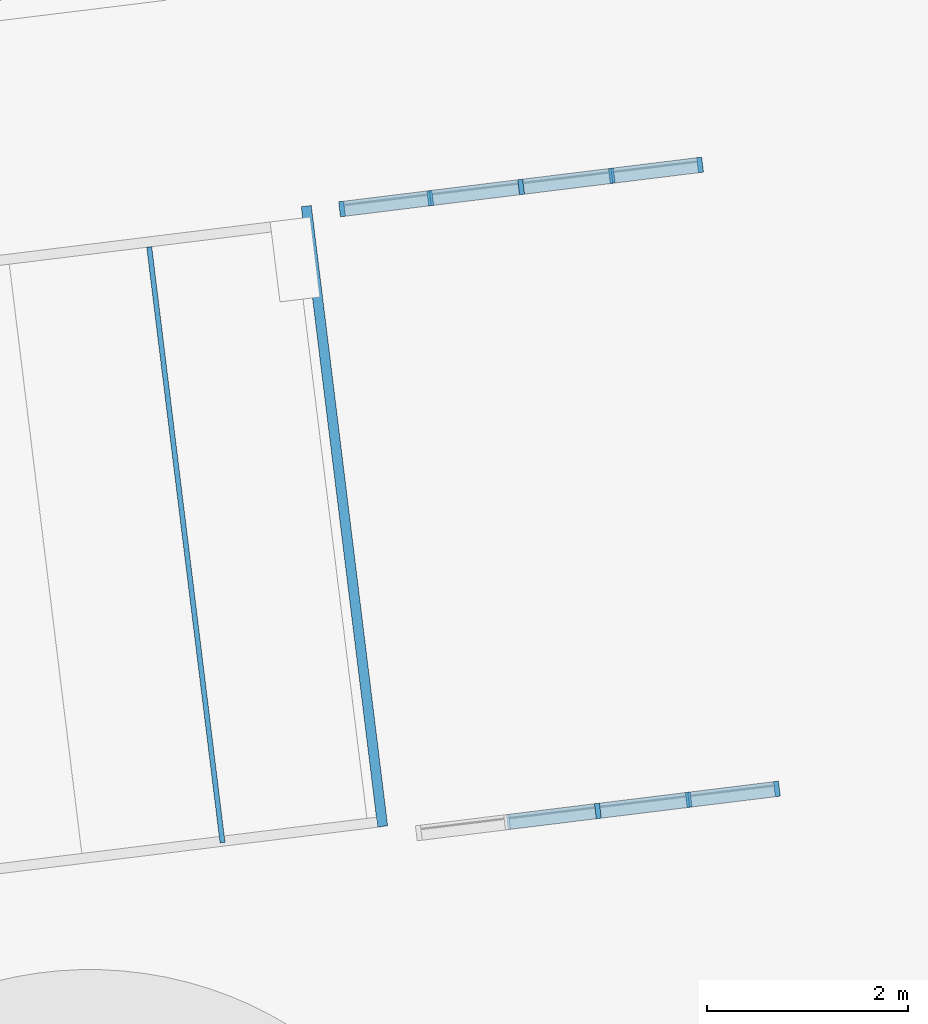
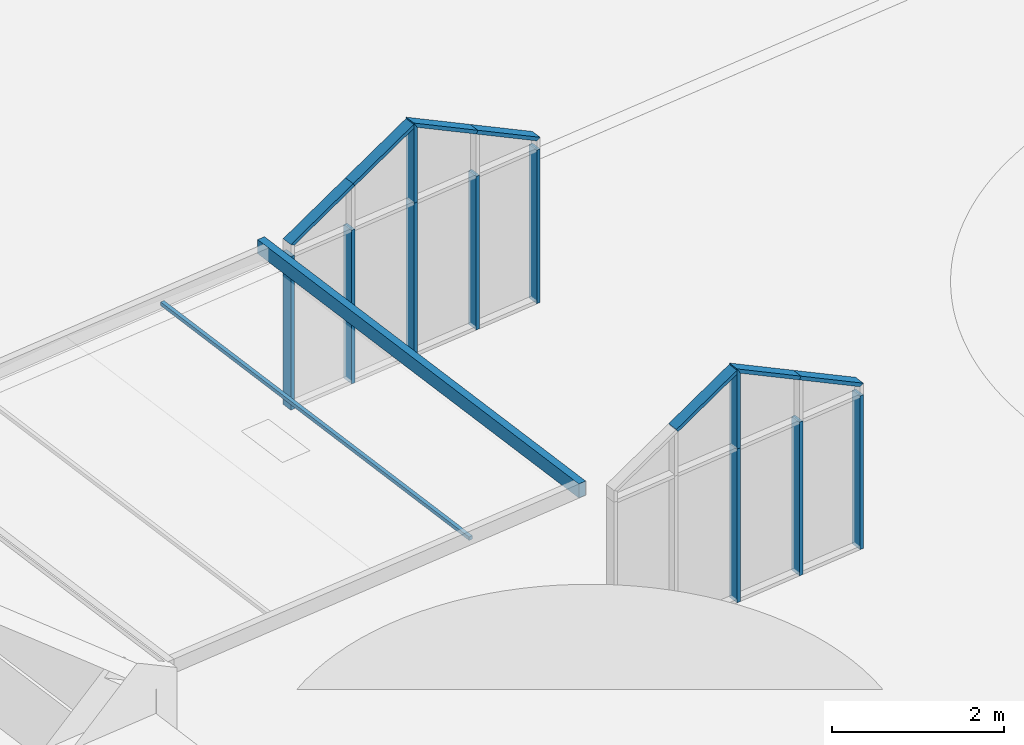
# One storey, part 2 of 75: 17 members, 2 beams, 2 elements without a shape of their own.
"""IFC2X3 building model written with IfcOpenShell, lengths in metres."""

from ifc_helpers import new_model, entity, si_unit, converted_unit, derived_unit, direction, frame, frame_2d, origin, origin_2d_with_axis, place, context, subcontext, project, spatial, rectangle, extrude, clip, halfspace, source, transform, mapped, material, type_object, type_shapes, element, aggregate, save


model = new_model("IFC2X3")

# Units and contexts
model_context = context("Model", 3, precision=1e-05, world=origin(), true_north=direction((6.123031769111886e-17, 1.0)))
body_context = subcontext(model_context, "Body", "Model", "MODEL_VIEW")
ifc_project = project(units=[si_unit("LENGTHUNIT", "METRE"), si_unit("AREAUNIT", "SQUARE_METRE"), si_unit("VOLUMEUNIT", "CUBIC_METRE"), converted_unit("PLANEANGLEUNIT", "DEGREE", entity("IfcRatioMeasure", 0.017453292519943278), si_unit("PLANEANGLEUNIT", "RADIAN"), dimensions=[0, 0, 0, 0, 0, 0, 0]), si_unit("MASSUNIT", "GRAM", prefix="KILO"), derived_unit("MASSDENSITYUNIT", [(si_unit("MASSUNIT", "GRAM", prefix="KILO"), 1), (si_unit("LENGTHUNIT", "METRE"), -3)]), derived_unit("IONCONCENTRATIONUNIT", [(si_unit("MASSUNIT", "GRAM", prefix="KILO"), 1), (si_unit("LENGTHUNIT", "METRE"), -3)]), derived_unit("MOMENTOFINERTIAUNIT", [(si_unit("LENGTHUNIT", "METRE"), 4)]), si_unit("TIMEUNIT", "SECOND"), si_unit("FREQUENCYUNIT", "HERTZ"), si_unit("THERMODYNAMICTEMPERATUREUNIT", "DEGREE_CELSIUS"), derived_unit("THERMALTRANSMITTANCEUNIT", [(si_unit("MASSUNIT", "GRAM", prefix="KILO"), 1), (si_unit("THERMODYNAMICTEMPERATUREUNIT", "KELVIN"), -1), (si_unit("TIMEUNIT", "SECOND"), -3)]), derived_unit("THERMALCONDUCTANCEUNIT", [(si_unit("MASSUNIT", "GRAM", prefix="KILO"), 1), (si_unit("THERMODYNAMICTEMPERATUREUNIT", "KELVIN"), -1), (si_unit("TIMEUNIT", "SECOND"), -3), (si_unit("LENGTHUNIT", "METRE"), 1)]), derived_unit("VOLUMETRICFLOWRATEUNIT", [(si_unit("LENGTHUNIT", "METRE"), 3), (si_unit("TIMEUNIT", "SECOND"), -1)]), derived_unit("MASSFLOWRATEUNIT", [(si_unit("MASSUNIT", "GRAM", prefix="KILO"), 1), (si_unit("TIMEUNIT", "SECOND"), -1)]), derived_unit("ROTATIONALFREQUENCYUNIT", [(si_unit("TIMEUNIT", "SECOND"), -1)]), si_unit("ELECTRICCURRENTUNIT", "AMPERE"), si_unit("ELECTRICVOLTAGEUNIT", "VOLT"), si_unit("POWERUNIT", "WATT"), si_unit("FORCEUNIT", "NEWTON", prefix="KILO"), si_unit("ILLUMINANCEUNIT", "LUX"), si_unit("LUMINOUSFLUXUNIT", "LUMEN"), si_unit("LUMINOUSINTENSITYUNIT", "CANDELA"), derived_unit("USERDEFINED", [(si_unit("MASSUNIT", "GRAM", prefix="KILO"), -1), (si_unit("LENGTHUNIT", "METRE"), -2), (si_unit("TIMEUNIT", "SECOND"), 3), (si_unit("LUMINOUSFLUXUNIT", "LUMEN"), 1)]), derived_unit("USERDEFINED", [(si_unit("MASSUNIT", "GRAM", prefix="KILO"), 1), (si_unit("TIMEUNIT", "SECOND"), -3), (si_unit("LENGTHUNIT", "METRE"), 3), (si_unit("ELECTRICCURRENTUNIT", "AMPERE"), -2)]), derived_unit("SOUNDPOWERUNIT", [(si_unit("MASSUNIT", "GRAM", prefix="KILO"), 1), (si_unit("TIMEUNIT", "SECOND"), -3), (si_unit("LENGTHUNIT", "METRE"), 2)]), derived_unit("SOUNDPRESSUREUNIT", [(si_unit("MASSUNIT", "GRAM", prefix="KILO"), 1), (si_unit("LENGTHUNIT", "METRE"), -1), (si_unit("TIMEUNIT", "SECOND"), -2)]), derived_unit("LINEARVELOCITYUNIT", [(si_unit("LENGTHUNIT", "METRE"), 1), (si_unit("TIMEUNIT", "SECOND"), -1)]), si_unit("PRESSUREUNIT", "PASCAL"), derived_unit("USERDEFINED", [(si_unit("MASSUNIT", "GRAM", prefix="KILO"), 1), (si_unit("LENGTHUNIT", "METRE"), -2), (si_unit("TIMEUNIT", "SECOND"), -2)]), derived_unit("LINEARFORCEUNIT", [(si_unit("MASSUNIT", "GRAM", prefix="KILO"), 1), (si_unit("TIMEUNIT", "SECOND"), -2)]), derived_unit("PLANARFORCEUNIT", [(si_unit("MASSUNIT", "GRAM", prefix="KILO"), 1), (si_unit("LENGTHUNIT", "METRE"), -1), (si_unit("TIMEUNIT", "SECOND"), -2)]), derived_unit("SPECIFICHEATCAPACITYUNIT", [(si_unit("THERMODYNAMICTEMPERATUREUNIT", "KELVIN"), -1), (si_unit("LENGTHUNIT", "METRE"), 2), (si_unit("TIMEUNIT", "SECOND"), -2)]), derived_unit("HEATINGVALUEUNIT", [(si_unit("LENGTHUNIT", "METRE"), 2), (si_unit("TIMEUNIT", "SECOND"), -2)]), derived_unit("VAPORPERMEABILITYUNIT", [(si_unit("LENGTHUNIT", "METRE"), -1), (si_unit("TIMEUNIT", "SECOND"), 1)]), derived_unit("DYNAMICVISCOSITYUNIT", [(si_unit("MASSUNIT", "GRAM", prefix="KILO"), 1), (si_unit("TIMEUNIT", "SECOND"), -1), (si_unit("LENGTHUNIT", "METRE"), -1)]), derived_unit("THERMALEXPANSIONCOEFFICIENTUNIT", [(si_unit("THERMODYNAMICTEMPERATUREUNIT", "KELVIN"), -1)]), derived_unit("MODULUSOFELASTICITYUNIT", [(si_unit("MASSUNIT", "GRAM", prefix="KILO"), 1), (si_unit("LENGTHUNIT", "METRE"), -1), (si_unit("TIMEUNIT", "SECOND"), -2)]), derived_unit("ISOTHERMALMOISTURECAPACITYUNIT", [(si_unit("LENGTHUNIT", "METRE"), 3), (si_unit("MASSUNIT", "GRAM", prefix="KILO"), -1)]), derived_unit("MOISTUREDIFFUSIVITYUNIT", [(si_unit("TIMEUNIT", "SECOND"), -1), (si_unit("LENGTHUNIT", "METRE"), 2)])], contexts=[model_context])

# Site, building, storey
site_placement = place(None, origin())
site = spatial("IfcSite", under=ifc_project, at=site_placement, Name="Default", CompositionType="ELEMENT")
building_placement = place(site_placement, origin())
building = spatial("IfcBuilding", under=site, at=building_placement, Name="Projeto", CompositionType="ELEMENT")
storey_placement = place(building_placement, origin())
storey = spatial("IfcBuildingStorey", under=building, at=storey_placement, Name="Nível 1", CompositionType="ELEMENT", Elevation=0.0)

# Beams
ifc_material_1 = material(Name=".ET - EST METALICA")
beam_type_1 = type_object("IfcBeamType", Name="23.25.30.11.14.14 - VIGA.MADEIRA:5x5", PredefinedType="NOTDEFINED")
beam_1_placement = place(storey_placement, frame((7.595650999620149, 35.415662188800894, -0.07999999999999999), z_axis=(0.0, 0.0, 1.0), x_axis=(0.12215242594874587, -0.9925113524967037, 0.0)))
element("IfcBeam", 1, at=beam_1_placement, inside=storey, type_object=beam_type_1, material=ifc_material_1, Name="23.25.30.11.14.14 - VIGA.MADEIRA:5x5", ObjectType="23.25.30.11.14.14 - VIGA.MADEIRA:5x5", context=body_context, shape_type="SweptSolid", body=[
    extrude(rectangle(XDim=0.19999999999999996, YDim=0.10000000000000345, at=frame_2d((6.938893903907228e-18, -7.979727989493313e-16), x_axis=(1.0, 0.0))), frame((-0.16236155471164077, 0.0, -0.1000000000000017), z_axis=(1.0, 0.0, 0.0), x_axis=(0.0, 0.0, -1.0)), (0.0, 0.0, 1.0), 6.2104089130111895),
])
beam_type_2 = type_object("IfcBeamType", Name="23.25.30.11.14.14 - VIGA.MADEIRA:5x5 2", PredefinedType="NOTDEFINED")
beam_2_placement = place(storey_placement, frame((6.014987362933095, 35.17074620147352, -0.18499999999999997), z_axis=(0.0015396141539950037, -0.012509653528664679, 0.9999205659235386), x_axis=(0.12214272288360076, -0.992432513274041, -0.012604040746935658)))
element("IfcBeam", 2, at=beam_2_placement, inside=storey, type_object=beam_type_2, material=ifc_material_1, Name="23.25.30.11.14.14 - VIGA.MADEIRA:5x5 2", ObjectType="23.25.30.11.14.14 - VIGA.MADEIRA:5x5 2", context=body_context, shape_type="SweptSolid", body=[
    extrude(rectangle(XDim=0.04999999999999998, YDim=0.05000000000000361, at=frame_2d((0.0, -5.377642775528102e-16), x_axis=(1.0, 0.0))), frame((-0.0002435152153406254, 0.0, -0.02500286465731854), z_axis=(0.9999308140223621, 0.0, 0.01176295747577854), x_axis=(0.011762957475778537, 0.0, -0.999930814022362)), (0.0, 0.0, 1.0), 5.963827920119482),
])

# Curtain wall, members
curtain_wall_type = type_object("IfcCurtainWallType", Name="Parede cortina:Vitrine", PredefinedType="NOTDEFINED")
curtain_wall_1_placement = place(storey_placement, origin())
curtain_wall_1 = element("IfcCurtainWall", 3, at=curtain_wall_1_placement, inside=storey, type_object=curtain_wall_type, Name="Parede cortina:Vitrine", ObjectType="Parede cortina:Vitrine")
ifc_material_2 = material(Name="Alumín.")
member_type_1 = type_object("IfcMemberType", Name="Montante retangular:50 x 150mm", PredefinedType="MULLION", material=ifc_material_2)
shared_shape_1 = source(origin(), body_context, "Body", "SweptSolid", [
    extrude(rectangle(XDim=0.14999999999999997, YDim=0.05, at=origin_2d_with_axis()), frame((0.0, 0.0, -2.1829684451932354), z_axis=(0.0, 0.0, 1.0), x_axis=(0.0, -1.0, 0.0)), (0.0, 0.0, 1.0), 2.1829684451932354),
])
type_shapes(member_type_1, [shared_shape_1])
member_1_placement = place(curtain_wall_1_placement, frame((10.47370016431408, 29.56597958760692, -2.579999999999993), z_axis=(0.0, 0.0, -1.0), x_axis=(0.9925113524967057, 0.1221524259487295, 0.0)))
member_1 = element("IfcMember", 4, at=member_1_placement, type_object=member_type_1, material=ifc_material_2, Name="Montante retangular:50 x 150mm", ObjectType="Montante retangular:50 x 150mm", context=body_context, shape_type="MappedRepresentation", body=[
    mapped(shared_shape_1, transform((0.0, 0.0, 0.0), scale=1.0)),
])
member_2_placement = place(curtain_wall_1_placement, frame((11.375656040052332, 29.67698698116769, -2.579999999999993), z_axis=(0.0, 0.0, -1.0), x_axis=(0.9925113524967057, 0.1221524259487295, 0.0)))
member_2 = element("IfcMember", 5, at=member_2_placement, type_object=member_type_1, material=ifc_material_2, Name="Montante retangular:50 x 150mm", ObjectType="Montante retangular:50 x 150mm", context=body_context, shape_type="MappedRepresentation", body=[
    mapped(shared_shape_1, transform((0.0, 0.0, 0.0), scale=1.0)),
])

curtain_wall_2_placement = place(storey_placement, origin())
curtain_wall_2 = element("IfcCurtainWall", 6, at=curtain_wall_2_placement, inside=storey, type_object=curtain_wall_type, Name="Parede cortina:Vitrine", ObjectType="Parede cortina:Vitrine")
member_3_placement = place(curtain_wall_2_placement, frame((8.80853024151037, 35.6562293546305, -2.579999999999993), z_axis=(0.0, 0.0, -1.0), x_axis=(0.9925113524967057, 0.1221524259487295, 0.0)))
member_3 = element("IfcMember", 7, at=member_3_placement, type_object=member_type_1, material=ifc_material_2, Name="Montante retangular:50 x 150mm", ObjectType="Montante retangular:50 x 150mm", context=body_context, shape_type="MappedRepresentation", body=[
    mapped(shared_shape_1, transform((0.0, 0.0, 0.0), scale=1.0)),
])
member_4_placement = place(curtain_wall_2_placement, frame((9.710486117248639, 35.76723674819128, -2.579999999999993), z_axis=(0.0, 0.0, -1.0), x_axis=(0.9925113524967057, 0.1221524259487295, 0.0)))
member_4 = element("IfcMember", 8, at=member_4_placement, type_object=member_type_1, material=ifc_material_2, Name="Montante retangular:50 x 150mm", ObjectType="Montante retangular:50 x 150mm", context=body_context, shape_type="MappedRepresentation", body=[
    mapped(shared_shape_1, transform((0.0, 0.0, 0.0), scale=1.0)),
])
member_5_placement = place(curtain_wall_2_placement, frame((10.612441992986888, 35.878244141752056, -2.579999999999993), z_axis=(0.0, 0.0, -1.0), x_axis=(0.9925113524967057, 0.1221524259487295, 0.0)))
member_5 = element("IfcMember", 9, at=member_5_placement, type_object=member_type_1, material=ifc_material_2, Name="Montante retangular:50 x 150mm", ObjectType="Montante retangular:50 x 150mm", context=body_context, shape_type="MappedRepresentation", body=[
    mapped(shared_shape_1, transform((0.0, 0.0, 0.0), scale=1.0)),
])

# Member
member_type_2 = type_object("IfcMemberType", Name="Montante retangular:50 x 150mm", PredefinedType="MULLION", material=ifc_material_2)
shared_shape_2 = source(origin(), body_context, "Body", "SweptSolid", [
    clip(extrude(rectangle(XDim=0.14999999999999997, YDim=0.05, at=origin_2d_with_axis()), frame((0.0, 0.0, -1.1418157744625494), z_axis=(0.0, 0.0, 1.0), x_axis=(0.0, -1.0, 0.0)), (0.0, 0.0, 1.0), 1.1418157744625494), halfspace(frame((0.0, 0.0, -1.1002087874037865), z_axis=(0.8571673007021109, 0.0, -0.5150380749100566), x_axis=(0.5150380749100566, 0.0, 0.8571673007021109)), False)),
])
type_shapes(member_type_2, [shared_shape_2])
member_6_placement = place(curtain_wall_1_placement, frame((10.47370016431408, 29.56597958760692, -0.39703155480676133), z_axis=(0.0, 0.0, -1.0), x_axis=(0.9925113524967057, 0.1221524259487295, 0.0)))
member_6 = element("IfcMember", 10, at=member_6_placement, type_object=member_type_2, material=ifc_material_2, Name="Montante retangular:50 x 150mm", ObjectType="Montante retangular:50 x 150mm", context=body_context, shape_type="MappedRepresentation", body=[
    mapped(shared_shape_2, transform((0.0, 0.0, 0.0), scale=1.0)),
])

member_7_placement = place(curtain_wall_2_placement, frame((9.710486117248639, 35.76723674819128, -0.39703155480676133), z_axis=(0.0, 0.0, -1.0), x_axis=(0.9925113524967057, 0.1221524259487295, 0.0)))
member_7 = element("IfcMember", 11, at=member_7_placement, type_object=member_type_2, material=ifc_material_2, Name="Montante retangular:50 x 150mm", ObjectType="Montante retangular:50 x 150mm", context=body_context, shape_type="MappedRepresentation", body=[
    mapped(shared_shape_2, transform((0.0, 0.0, 0.0), scale=1.0)),
])

member_type_3 = type_object("IfcMemberType", Name="Montante retangular:50 x 150mm", PredefinedType="MULLION", material=ifc_material_2)
shared_shape_3 = source(origin(), body_context, "Body", "SweptSolid", [
    extrude(rectangle(XDim=0.15, YDim=0.05000000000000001, at=frame_2d((-6.938893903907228e-18, -5.898059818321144e-17), x_axis=(1.0, 0.0))), frame((-0.025, 0.0, -1.0210111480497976), z_axis=(0.0, 0.0, 1.0), x_axis=(0.0, -1.0, 0.0)), (0.0, 0.0, 1.0), 1.0210111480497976),
])
type_shapes(member_type_3, [shared_shape_3])
member_8_placement = place(curtain_wall_1_placement, frame((10.466492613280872, 29.565092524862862, 0.7353527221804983), z_axis=(0.8763355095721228, 0.10785419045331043, 0.4694715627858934), x_axis=(-0.4659558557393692, -0.05734709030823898, 0.8829475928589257)))
member_8 = element("IfcMember", 12, at=member_8_placement, type_object=member_type_3, material=ifc_material_2, Name="Montante retangular:50 x 150mm", ObjectType="Montante retangular:50 x 150mm", context=body_context, shape_type="MappedRepresentation", body=[
    mapped(shared_shape_3, transform((0.0, 0.0, 0.0), scale=1.0)),
])

member_9_placement = place(curtain_wall_2_placement, frame((9.703278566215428, 35.76634968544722, 0.7353527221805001), z_axis=(0.8763355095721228, 0.10785419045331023, 0.4694715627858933), x_axis=(-0.4659558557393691, -0.057347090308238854, 0.8829475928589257)))
member_9 = element("IfcMember", 13, at=member_9_placement, type_object=member_type_3, material=ifc_material_2, Name="Montante retangular:50 x 150mm", ObjectType="Montante retangular:50 x 150mm", context=body_context, shape_type="MappedRepresentation", body=[
    mapped(shared_shape_3, transform((0.0, 0.0, 0.0), scale=1.0)),
])

member_type_4 = type_object("IfcMemberType", Name="Montante retangular:50 x 150mm", PredefinedType="MULLION", material=ifc_material_2)
shared_shape_4 = source(origin(), body_context, "Body", "SweptSolid", [
    clip(extrude(rectangle(XDim=0.14999999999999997, YDim=0.05, at=frame_2d((-2.0816681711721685e-17, 0.0), x_axis=(1.0, 0.0))), frame((-0.025, 0.0, -1.0292357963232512), z_axis=(0.0, 0.0, 1.0), x_axis=(0.0, -1.0, 0.0)), (0.0, 0.0, 1.0), 1.0292357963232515), halfspace(frame((0.0, -0.3048, -1.0292357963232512), z_axis=(-0.5150380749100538, 0.0, -0.8571673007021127), x_axis=(-0.8571673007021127, 0.0, 0.5150380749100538)), False)),
])
type_shapes(member_type_4, [shared_shape_4])
member_10_placement = place(curtain_wall_2_placement, frame((8.80853024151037, 35.65622935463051, 0.256017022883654), z_axis=(0.8763355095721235, 0.10785419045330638, 0.46947156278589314), x_axis=(-0.46595585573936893, -0.0573470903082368, 0.8829475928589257)))
member_10 = element("IfcMember", 14, at=member_10_placement, type_object=member_type_4, material=ifc_material_2, Name="Montante retangular:50 x 150mm", ObjectType="Montante retangular:50 x 150mm", context=body_context, shape_type="MappedRepresentation", body=[
    mapped(shared_shape_4, transform((0.0, 0.0, 0.0), scale=1.0)),
])

member_type_5 = type_object("IfcMemberType", Name="Montante retangular:50 x 150mm", PredefinedType="MULLION", material=ifc_material_2)
shared_shape_5 = source(origin(), body_context, "Body", "SweptSolid", [
    extrude(rectangle(XDim=0.14999999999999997, YDim=0.05, at=origin_2d_with_axis()), frame((-0.025, 0.0, -2.1829684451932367), z_axis=(0.0, 0.0, 1.0), x_axis=(0.0, -1.0, 0.0)), (0.0, 0.0, 1.0), 2.1829684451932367),
])
type_shapes(member_type_5, [shared_shape_5])
member_11_placement = place(curtain_wall_1_placement, frame((12.277611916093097, 29.787994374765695, -2.579999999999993), z_axis=(0.0, 0.0, -1.0), x_axis=(0.9925113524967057, 0.1221524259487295, 0.0)))
member_11 = element("IfcMember", 15, at=member_11_placement, type_object=member_type_5, material=ifc_material_2, Name="Montante retangular:50 x 150mm", ObjectType="Montante retangular:50 x 150mm", context=body_context, shape_type="MappedRepresentation", body=[
    mapped(shared_shape_5, transform((0.0, 0.0, 0.0), scale=1.0)),
])

member_12_placement = place(curtain_wall_2_placement, frame((11.51439786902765, 35.989251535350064, -2.579999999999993), z_axis=(0.0, 0.0, -1.0), x_axis=(0.9925113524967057, 0.1221524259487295, 0.0)))
member_12 = element("IfcMember", 16, at=member_12_placement, type_object=member_type_5, material=ifc_material_2, Name="Montante retangular:50 x 150mm", ObjectType="Montante retangular:50 x 150mm", context=body_context, shape_type="MappedRepresentation", body=[
    mapped(shared_shape_5, transform((0.0, 0.0, 0.0), scale=1.0)),
])

member_type_6 = type_object("IfcMemberType", Name="Montante retangular:50 x 150mm", PredefinedType="MULLION", material=ifc_material_2)
shared_shape_6 = source(origin(), body_context, "Body", "SweptSolid", [
    extrude(rectangle(XDim=0.14999999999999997, YDim=0.05, at=origin_2d_with_axis()), frame((-0.025, 0.0, -2.182968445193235), z_axis=(0.0, 0.0, 1.0), x_axis=(0.0, -1.0, 0.0)), (0.0, 0.0, 1.0), 2.182968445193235),
])
type_shapes(member_type_6, [shared_shape_6])
member_13_placement = place(curtain_wall_2_placement, frame((7.906574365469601, 35.545221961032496, -0.39703155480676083), z_axis=(0.0, 0.0, 1.0), x_axis=(-0.9925113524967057, -0.1221524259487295, 0.0)))
member_13 = element("IfcMember", 17, at=member_13_placement, type_object=member_type_6, material=ifc_material_2, Name="Montante retangular:50 x 150mm", ObjectType="Montante retangular:50 x 150mm", context=body_context, shape_type="MappedRepresentation", body=[
    mapped(shared_shape_6, transform((0.0, 0.0, 0.0), scale=1.0)),
])

member_type_7 = type_object("IfcMemberType", Name="Montante retangular:50 x 150mm", PredefinedType="MULLION", material=ifc_material_2)
shared_shape_7 = source(origin(), body_context, "Body", "SweptSolid", [
    clip(extrude(rectangle(XDim=0.14999999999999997, YDim=0.05, at=origin_2d_with_axis()), frame((-0.025, 0.0, -1.0292357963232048), z_axis=(0.0, 0.0, 1.0), x_axis=(0.0, -1.0, 0.0)), (0.0, 0.0, 1.0), 1.0292357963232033), halfspace(frame((0.0, -0.3048, 0.0), z_axis=(-0.5150380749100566, 0.0, 0.8571673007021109), x_axis=(-0.8571673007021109, 0.0, -0.5150380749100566)), False)),
])
type_shapes(member_type_7, [shared_shape_7])
member_14_placement = place(curtain_wall_1_placement, frame((12.277611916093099, 29.787994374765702, -0.23490239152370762), z_axis=(0.8763355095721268, 0.10785419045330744, -0.46947156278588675), x_axis=(0.4659558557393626, 0.05734709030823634, 0.8829475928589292)))
member_14 = element("IfcMember", 18, at=member_14_placement, type_object=member_type_7, material=ifc_material_2, Name="Montante retangular:50 x 150mm", ObjectType="Montante retangular:50 x 150mm", context=body_context, shape_type="MappedRepresentation", body=[
    mapped(shared_shape_7, transform((0.0, 0.0, 0.0), scale=1.0)),
])

member_15_placement = place(curtain_wall_2_placement, frame((11.514397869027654, 35.98925153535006, -0.23490239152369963), z_axis=(0.8763355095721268, 0.10785419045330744, -0.46947156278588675), x_axis=(0.4659558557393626, 0.05734709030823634, 0.8829475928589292)))
member_15 = element("IfcMember", 19, at=member_15_placement, type_object=member_type_7, material=ifc_material_2, Name="Montante retangular:50 x 150mm", ObjectType="Montante retangular:50 x 150mm", context=body_context, shape_type="MappedRepresentation", body=[
    mapped(shared_shape_7, transform((0.0, 0.0, 0.0), scale=1.0)),
])

member_type_8 = type_object("IfcMemberType", Name="Montante retangular:50 x 150mm", PredefinedType="MULLION", material=ifc_material_2)
shared_shape_8 = source(origin(), body_context, "Body", "SweptSolid", [
    clip(extrude(rectangle(XDim=0.14999999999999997, YDim=0.05, at=origin_2d_with_axis()), frame((-0.025, 0.0, -1.0575500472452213), z_axis=(0.0, 0.0, 1.0), x_axis=(0.0, -1.0, 0.0)), (0.0, 0.0, 1.0), 1.0575500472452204), halfspace(frame((-0.024999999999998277, 0.0, -1.0159430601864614), z_axis=(-0.8571673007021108, 0.0, -0.5150380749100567), x_axis=(-0.5150380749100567, 0.0, 0.8571673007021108)), False)),
])
type_shapes(member_type_8, [shared_shape_8])
member_16_placement = place(curtain_wall_1_placement, frame((11.375656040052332, 29.676986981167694, 0.24829454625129), z_axis=(0.8763355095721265, 0.10785419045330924, -0.4694715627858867), x_axis=(0.46595585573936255, 0.05734709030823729, 0.8829475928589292)))
member_16 = element("IfcMember", 20, at=member_16_placement, type_object=member_type_8, material=ifc_material_2, Name="Montante retangular:50 x 150mm", ObjectType="Montante retangular:50 x 150mm", context=body_context, shape_type="MappedRepresentation", body=[
    mapped(shared_shape_8, transform((0.0, 0.0, 0.0), scale=1.0)),
])

aggregate(curtain_wall_1, [member_1, member_6, member_2, member_14, member_8, member_16, member_11])

member_17_placement = place(curtain_wall_2_placement, frame((10.612441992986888, 35.878244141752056, 0.24829454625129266), z_axis=(0.8763355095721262, 0.1078541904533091, -0.4694715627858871), x_axis=(0.46595585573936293, 0.05734709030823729, 0.8829475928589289)))
member_17 = element("IfcMember", 21, at=member_17_placement, type_object=member_type_8, material=ifc_material_2, Name="Montante retangular:50 x 150mm", ObjectType="Montante retangular:50 x 150mm", context=body_context, shape_type="MappedRepresentation", body=[
    mapped(shared_shape_8, transform((0.0, 0.0, 0.0), scale=1.0)),
])

aggregate(curtain_wall_2, [member_3, member_4, member_7, member_5, member_15, member_9, member_10, member_17, member_12, member_13])

save(model, "model.ifc")
